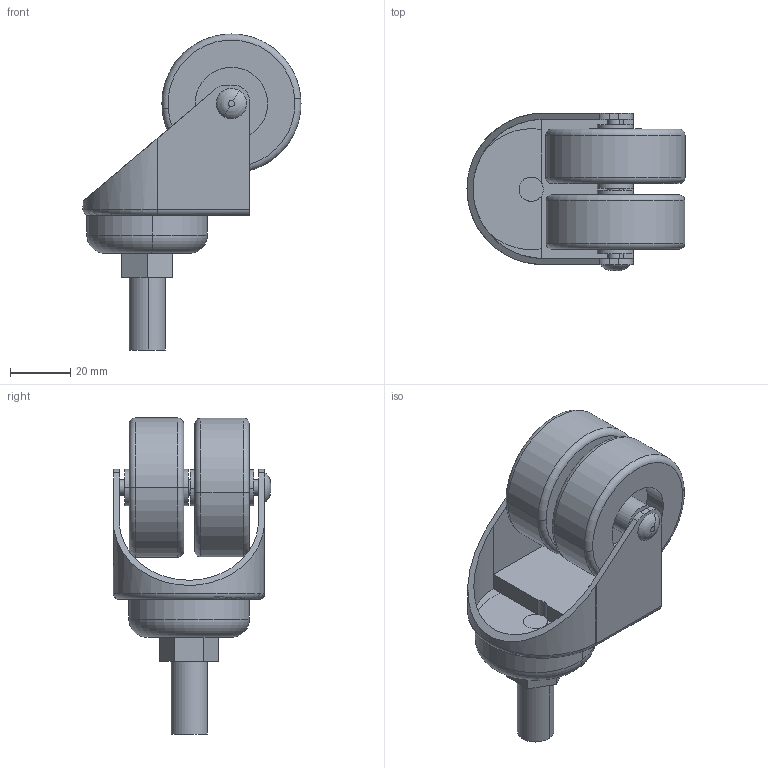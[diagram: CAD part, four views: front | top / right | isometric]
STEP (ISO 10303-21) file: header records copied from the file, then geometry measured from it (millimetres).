
FILE_DESCRIPTION (( 'STEP AP203' ), '1' );
FILE_NAME ('RSI936050.STEP', '2016-04-03T09:25:52', ( '' ), ( '' ), 'SwSTEP 2.0', 'SolidWorks 2014', '' );
FILE_SCHEMA (( 'CONFIG_CONTROL_DESIGN' ));
Length unit declared in the file: millimetre
Products named in the file (5): RSI936050; 搿錓; 膰錼勷; ïîäøèáíèê; 闃膼瘔
Assembly tree (5 placements, depth 2):
  RSI936050
    膰錼勷  x2
    闃膼瘔
    搿錓
    ïîäøèáíèê
Bounding box: 72.08 x 52.1 x 104.48 mm (x, y, z)
Volume: 84257.9 mm3; surface area: 33188.3 mm2
Topology: 5 solids, 5 shells, 107 faces, 245 edges, 158 vertices
Faces by surface type: cylinder 49, plane 42, torus 16
Entity records: 3092 total; most frequent: CARTESIAN_POINT 494, DIRECTION 472, ORIENTED_EDGE 402, EDGE_CURVE 201, AXIS2_PLACEMENT_3D 189, VERTEX_POINT 130, EDGE_LOOP 99, CIRCLE 96
